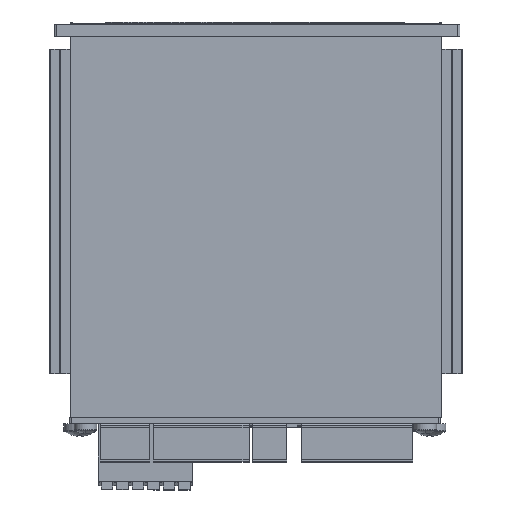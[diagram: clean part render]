
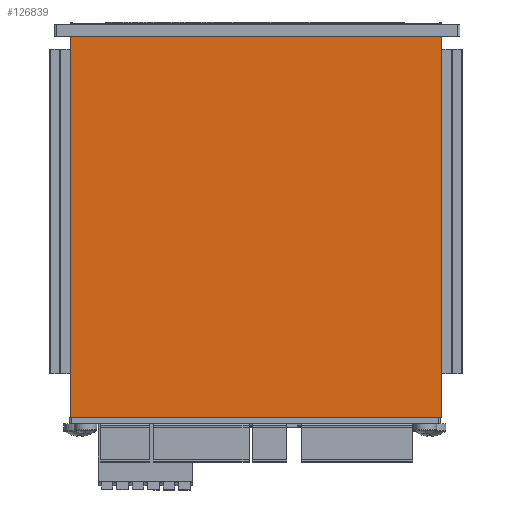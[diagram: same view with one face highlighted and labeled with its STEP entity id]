
A CAD part, front view. The second image highlights one B-rep face of the part: STEP entity #126839.
In plain terms, the highlighted planar face has unit normal (0, -1, 0).
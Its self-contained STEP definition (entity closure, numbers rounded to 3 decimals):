
#1415 = ORIENTED_EDGE ( 'NONE', *, *, #45706, .T. ) ;
#8261 = DIRECTION ( 'NONE',  ( 1., 0., 0. ) ) ;
#11238 = VECTOR ( 'NONE', #126683, 1000. ) ;
#14569 = EDGE_LOOP ( 'NONE', ( #130887, #24069, #28449, #1415 ) ) ;
#24069 = ORIENTED_EDGE ( 'NONE', *, *, #220821, .F. ) ;
#24075 = CARTESIAN_POINT ( 'NONE',  ( 2071.349, 900.024, 94. ) ) ;
#28449 = ORIENTED_EDGE ( 'NONE', *, *, #74951, .F. ) ;
#31097 = DIRECTION ( 'NONE',  ( 0., 1., 0. ) ) ;
#33548 = VERTEX_POINT ( 'NONE', #242009 ) ;
#45706 = EDGE_CURVE ( 'NONE', #33548, #201672, #47373, .T. ) ;
#45966 = CARTESIAN_POINT ( 'NONE',  ( 0., 900.024, 94. ) ) ;
#47373 = LINE ( 'NONE', #107311, #149159 ) ;
#74951 = EDGE_CURVE ( 'NONE', #33548, #137936, #247731, .T. ) ;
#94920 = VECTOR ( 'NONE', #8261, 1000. ) ;
#100331 = CARTESIAN_POINT ( 'NONE',  ( 2071.349, 900.024, 94. ) ) ;
#107311 = CARTESIAN_POINT ( 'NONE',  ( 1979.849, 900.024, 94. ) ) ;
#119207 = EDGE_CURVE ( 'NONE', #201672, #213731, #151984, .T. ) ;
#126410 = CARTESIAN_POINT ( 'NONE',  ( 0., 900.024, 94. ) ) ;
#126568 = DIRECTION ( 'NONE',  ( 0., 0., -1. ) ) ;
#126683 = DIRECTION ( 'NONE',  ( 1., 0., 0. ) ) ;
#126839 = ADVANCED_FACE ( 'NONE', ( #164529 ), #241074, .F. ) ;
#127972 = CARTESIAN_POINT ( 'NONE',  ( 2071.349, 900.024, 0. ) ) ;
#130767 = LINE ( 'NONE', #24075, #175695 ) ;
#130887 = ORIENTED_EDGE ( 'NONE', *, *, #119207, .T. ) ;
#137936 = VERTEX_POINT ( 'NONE', #100331 ) ;
#149159 = VECTOR ( 'NONE', #126568, 1000. ) ;
#151984 = LINE ( 'NONE', #241342, #11238 ) ;
#164529 = FACE_OUTER_BOUND ( 'NONE', #14569, .T. ) ;
#164882 = DIRECTION ( 'NONE',  ( 0., 0., 1. ) ) ;
#174939 = CARTESIAN_POINT ( 'NONE',  ( 1979.849, 900.024, 0. ) ) ;
#175695 = VECTOR ( 'NONE', #177215, 1000. ) ;
#177215 = DIRECTION ( 'NONE',  ( 0., 0., -1. ) ) ;
#201672 = VERTEX_POINT ( 'NONE', #174939 ) ;
#213731 = VERTEX_POINT ( 'NONE', #127972 ) ;
#220821 = EDGE_CURVE ( 'NONE', #137936, #213731, #130767, .T. ) ;
#236339 = AXIS2_PLACEMENT_3D ( 'NONE', #126410, #31097, #164882 ) ;
#241074 = PLANE ( 'NONE',  #236339 ) ;
#241342 = CARTESIAN_POINT ( 'NONE',  ( 0., 900.024, 0. ) ) ;
#242009 = CARTESIAN_POINT ( 'NONE',  ( 1979.849, 900.024, 94. ) ) ;
#247731 = LINE ( 'NONE', #45966, #94920 ) ;
